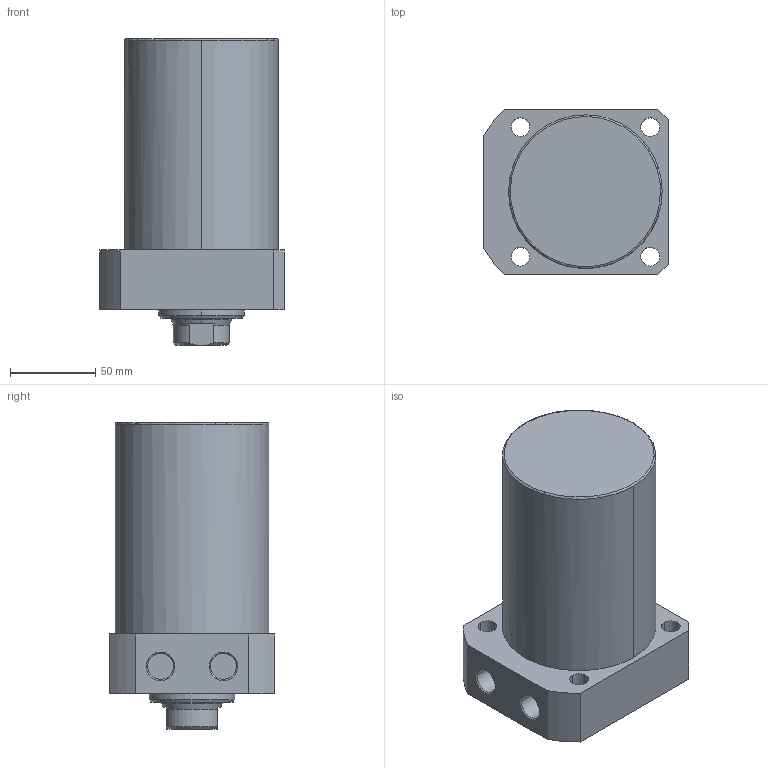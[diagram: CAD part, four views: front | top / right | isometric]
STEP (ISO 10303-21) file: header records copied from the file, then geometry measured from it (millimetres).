
FILE_DESCRIPTION((' '),'2;1');
FILE_NAME( 'TLLR-090CA-080.STEP.stp', '2025-10-24T16:35:17', (' '), ('--- Datakit www.datakit.com---'), ' Datakit CrossCadWare V2024.1 Dec 21 2023', 'Mastercam 2025', ' ');
FILE_SCHEMA(('AUTOMOTIVE_DESIGN { 1 0 10303 214 1 1 1 1 }'));
Length unit declared in the file: millimetre
Products named in the file (1): TLLR-090CA-080
Bounding box: 108 x 97 x 180 mm (x, y, z)
Volume: 1137759.3 mm3; surface area: 80147.6 mm2
Topology: 1 solids, 1 shells, 63 faces, 177 edges, 122 vertices
Faces by surface type: cylinder 28, plane 19, cone 14, torus 2
Entity records: 2172 total; most frequent: CARTESIAN_POINT 409, DIRECTION 400, ORIENTED_EDGE 350, EDGE_CURVE 175, AXIS2_PLACEMENT_3D 169, VERTEX_POINT 122, CIRCLE 105, EDGE_LOOP 79
